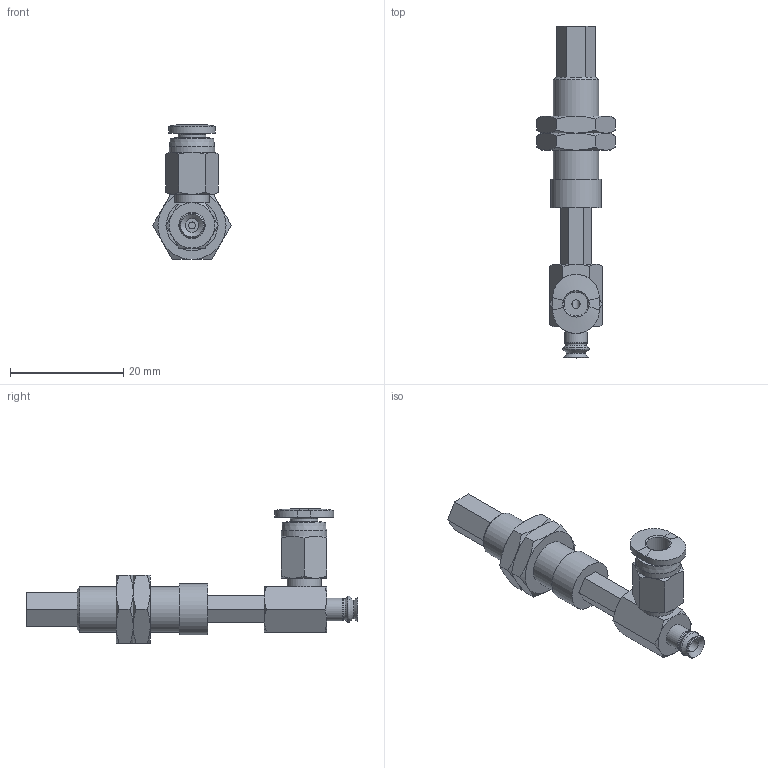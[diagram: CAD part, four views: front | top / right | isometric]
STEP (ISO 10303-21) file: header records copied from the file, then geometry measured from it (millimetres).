
FILE_DESCRIPTION(('STEP AP203'),'1');
FILE_NAME('-O.stp','2025-04-24T05:11:13',(' '),(' '),'Spatial InterOp 3D',' ',' ');
FILE_SCHEMA(('CONFIG_CONTROL_DESIGN'));
Length unit declared in the file: millimetre
Products named in the file (7): BNABPJYH-4-10-※-O; CONNECTOR-H-2A-10; Nut-2A-10-h; NAPFTH-2A-10-FBODY; NAPFTH-2A-10-MBODY; BPJG-4-※; PC-C_04-M3
Assembly tree (7 placements, depth 2):
  BNABPJYH-4-10-※-O
    CONNECTOR-H-2A-10
    Nut-2A-10-h  x2
    NAPFTH-2A-10-FBODY
    NAPFTH-2A-10-MBODY
    BPJG-4-※
    PC-C_04-M3
Bounding box: 13.86 x 58.5 x 23.77 mm (x, y, z)
Volume: 2772.4 mm3; surface area: 4100.7 mm2
Topology: 6 solids, 8 shells, 191 faces, 409 edges, 248 vertices
Faces by surface type: plane 80, cone 70, cylinder 23, torus 11, bspline 4, revolution 3
Full cylindrical faces by diameter (mm): 1.2 x1, 2 x2, 2.4 x1, 2.459 x2, 2.5 x2, 3 x4, 4 x1, 4.9 x1, 6 x1, 6.1 x1, 7.188 x2, 8 x2, 9 x1
Entity records: 4942 total; most frequent: CARTESIAN_POINT 1324, DIRECTION 671, ORIENTED_EDGE 596, EDGE_CURVE 299, AXIS2_PLACEMENT_3D 282, EDGE_LOOP 244, VERTEX_POINT 209, FACE_OUTER_BOUND 139
